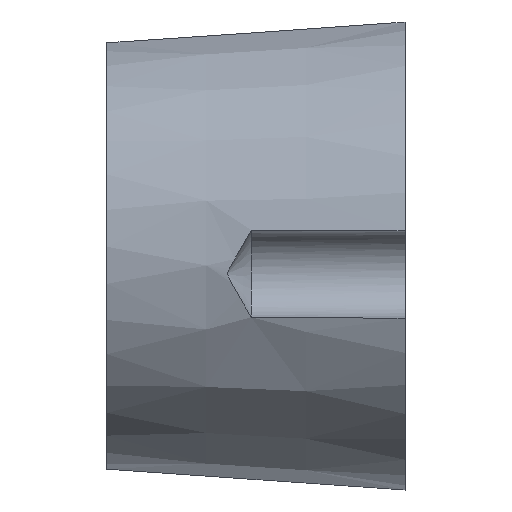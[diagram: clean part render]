
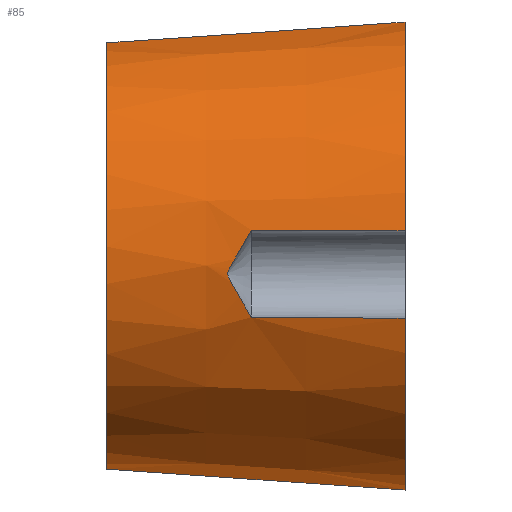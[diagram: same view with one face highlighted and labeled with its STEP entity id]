
A CAD part, top view. The second image highlights one B-rep face of the part: STEP entity #85.
In plain terms, the highlighted conical face has half-angle 4 degrees and reference radius 16.041 mm.
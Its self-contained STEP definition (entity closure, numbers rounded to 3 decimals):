
#85 = ADVANCED_FACE( '', ( #112 ), #113, .T. );
#112 = FACE_OUTER_BOUND( '', #144, .T. );
#113 = CONICAL_SURFACE( '', #145, 16.041, 0.07 );
#144 = EDGE_LOOP( '', ( #244, #245, #246, #247, #248, #249, #250, #251 ) );
#145 = AXIS2_PLACEMENT_3D( '', #252, #253, #254 );
#244 = ORIENTED_EDGE( '', *, *, #327, .F. );
#245 = ORIENTED_EDGE( '', *, *, #314, .F. );
#246 = ORIENTED_EDGE( '', *, *, #290, .F. );
#247 = ORIENTED_EDGE( '', *, *, #322, .T. );
#248 = ORIENTED_EDGE( '', *, *, #297, .T. );
#249 = ORIENTED_EDGE( '', *, *, #316, .F. );
#250 = ORIENTED_EDGE( '', *, *, #328, .F. );
#251 = ORIENTED_EDGE( '', *, *, #288, .F. );
#252 = CARTESIAN_POINT( '', ( -22.3, 0., 0. ) );
#253 = DIRECTION( '', ( 1., 0., 0. ) );
#254 = DIRECTION( '', ( 0., 1., 0. ) );
#288 = EDGE_CURVE( '', #330, #331, #332, .T. );
#290 = EDGE_CURVE( '', #334, #335, #336, .T. );
#297 = EDGE_CURVE( '', #343, #347, #349, .T. );
#314 = EDGE_CURVE( '', #335, #379, #380, .T. );
#316 = EDGE_CURVE( '', #381, #347, #383, .T. );
#322 = EDGE_CURVE( '', #334, #343, #390, .T. );
#327 = EDGE_CURVE( '', #379, #330, #397, .T. );
#328 = EDGE_CURVE( '', #331, #381, #398, .T. );
#330 = VERTEX_POINT( '', #400 );
#331 = VERTEX_POINT( '', #401 );
#332 = B_SPLINE_CURVE_WITH_KNOTS( '', 3, ( #402, #403, #404, #405, #406, #407, #408, #409, #410, #411, #412, #413, #414, #415, #416, #417, #418, #419, #420, #421, #422, #423 ), .UNSPECIFIED., .F., .F., ( 4, 2, 2, 2, 2, 2, 2, 2, 2, 2, 4 ), ( 0., 0.002, 0.003, 0.003, 0.004, 0.004, 0.004, 0.004, 0.005, 0.006, 0.007 ), .UNSPECIFIED. );
#334 = VERTEX_POINT( '', #425 );
#335 = VERTEX_POINT( '', #426 );
#336 = B_SPLINE_CURVE_WITH_KNOTS( '', 3, ( #427, #428, #429, #430, #431, #432 ), .UNSPECIFIED., .F., .F., ( 4, 2, 4 ), ( 0., 0.011, 0.022 ), .UNSPECIFIED. );
#343 = VERTEX_POINT( '', #444 );
#347 = VERTEX_POINT( '', #450 );
#349 = B_SPLINE_CURVE_WITH_KNOTS( '', 3, ( #453, #454, #455, #456, #457, #458, #459 ), .UNSPECIFIED., .F., .F., ( 4, 3, 4 ), ( 0.028, 0.03, 0.05 ), .UNSPECIFIED. );
#379 = VERTEX_POINT( '', #500 );
#380 = CIRCLE( '', #501, 17.6 );
#381 = VERTEX_POINT( '', #502 );
#383 = CIRCLE( '', #504, 17.6 );
#390 = CIRCLE( '', #513, 16.041 );
#397 = B_SPLINE_CURVE_WITH_KNOTS( '', 3, ( #553, #554, #555, #556 ), .UNSPECIFIED., .F., .F., ( 4, 4 ), ( 0., 0.012 ), .UNSPECIFIED. );
#398 = B_SPLINE_CURVE_WITH_KNOTS( '', 3, ( #557, #558, #559, #560 ), .UNSPECIFIED., .F., .F., ( 4, 4 ), ( 0., 0.012 ), .UNSPECIFIED. );
#400 = CARTESIAN_POINT( '', ( -11.5, 1.826, 16.696 ) );
#401 = CARTESIAN_POINT( '', ( -11.5, -4.687, 16.129 ) );
#402 = CARTESIAN_POINT( '', ( -11.5, 1.826, 16.696 ) );
#403 = CARTESIAN_POINT( '', ( -11.812, 1.287, 16.733 ) );
#404 = CARTESIAN_POINT( '', ( -12.124, 0.746, 16.744 ) );
#405 = CARTESIAN_POINT( '', ( -12.59, -0.065, 16.722 ) );
#406 = CARTESIAN_POINT( '', ( -12.745, -0.335, 16.708 ) );
#407 = CARTESIAN_POINT( '', ( -12.973, -0.743, 16.677 ) );
#408 = CARTESIAN_POINT( '', ( -13.048, -0.88, 16.665 ) );
#409 = CARTESIAN_POINT( '', ( -13.152, -1.088, 16.645 ) );
#410 = CARTESIAN_POINT( '', ( -13.185, -1.158, 16.638 ) );
#411 = CARTESIAN_POINT( '', ( -13.239, -1.304, 16.623 ) );
#412 = CARTESIAN_POINT( '', ( -13.259, -1.38, 16.616 ) );
#413 = CARTESIAN_POINT( '', ( -13.256, -1.536, 16.602 ) );
#414 = CARTESIAN_POINT( '', ( -13.233, -1.612, 16.597 ) );
#415 = CARTESIAN_POINT( '', ( -13.177, -1.756, 16.586 ) );
#416 = CARTESIAN_POINT( '', ( -13.143, -1.826, 16.581 ) );
#417 = CARTESIAN_POINT( '', ( -13.039, -2.033, 16.564 ) );
#418 = CARTESIAN_POINT( '', ( -12.964, -2.169, 16.553 ) );
#419 = CARTESIAN_POINT( '', ( -12.738, -2.574, 16.512 ) );
#420 = CARTESIAN_POINT( '', ( -12.583, -2.841, 16.479 ) );
#421 = CARTESIAN_POINT( '', ( -12.12, -3.638, 16.361 ) );
#422 = CARTESIAN_POINT( '', ( -11.81, -4.165, 16.258 ) );
#423 = CARTESIAN_POINT( '', ( -11.5, -4.687, 16.129 ) );
#425 = CARTESIAN_POINT( '', ( -22.3, 15.868, 2.347 ) );
#426 = CARTESIAN_POINT( '', ( 0., 17.423, 2.488 ) );
#427 = CARTESIAN_POINT( '', ( -22.3, 15.868, 2.347 ) );
#428 = CARTESIAN_POINT( '', ( -18.583, 16.115, 2.452 ) );
#429 = CARTESIAN_POINT( '', ( -14.866, 16.368, 2.515 ) );
#430 = CARTESIAN_POINT( '', ( -7.432, 16.887, 2.563 ) );
#431 = CARTESIAN_POINT( '', ( -3.716, 17.152, 2.549 ) );
#432 = CARTESIAN_POINT( '', ( 0., 17.423, 2.488 ) );
#444 = CARTESIAN_POINT( '', ( -22.3, -16.023, 0.75 ) );
#450 = CARTESIAN_POINT( '', ( 0., -17.584, 0.75 ) );
#453 = CARTESIAN_POINT( '', ( -22.3, -16.023, 0.75 ) );
#454 = CARTESIAN_POINT( '', ( -21.441, -16.083, 0.75 ) );
#455 = CARTESIAN_POINT( '', ( -20.582, -16.143, 0.75 ) );
#456 = CARTESIAN_POINT( '', ( -19.723, -16.203, 0.75 ) );
#457 = CARTESIAN_POINT( '', ( -13.149, -16.664, 0.75 ) );
#458 = CARTESIAN_POINT( '', ( -6.574, -17.124, 0.75 ) );
#459 = CARTESIAN_POINT( '', ( 0., -17.584, 0.75 ) );
#500 = CARTESIAN_POINT( '', ( 0., 1.766, 17.511 ) );
#501 = AXIS2_PLACEMENT_3D( '', #600, #601, #602 );
#502 = CARTESIAN_POINT( '', ( 0., -4.769, 16.942 ) );
#504 = AXIS2_PLACEMENT_3D( '', #606, #607, #608 );
#513 = AXIS2_PLACEMENT_3D( '', #620, #621, #622 );
#553 = CARTESIAN_POINT( '', ( 0., 1.766, 17.511 ) );
#554 = CARTESIAN_POINT( '', ( -3.833, 1.821, 17.236 ) );
#555 = CARTESIAN_POINT( '', ( -7.666, 1.84, 16.964 ) );
#556 = CARTESIAN_POINT( '', ( -11.5, 1.826, 16.696 ) );
#557 = CARTESIAN_POINT( '', ( -11.5, -4.687, 16.129 ) );
#558 = CARTESIAN_POINT( '', ( -7.666, -4.747, 16.39 ) );
#559 = CARTESIAN_POINT( '', ( -3.833, -4.775, 16.661 ) );
#560 = CARTESIAN_POINT( '', ( 0., -4.769, 16.942 ) );
#600 = CARTESIAN_POINT( '', ( 0., 0., 0. ) );
#601 = DIRECTION( '', ( 1., 0., 0. ) );
#602 = DIRECTION( '', ( 0., 1., 0. ) );
#606 = CARTESIAN_POINT( '', ( 0., 0., 0. ) );
#607 = DIRECTION( '', ( 1., 0., 0. ) );
#608 = DIRECTION( '', ( 0., 1., 0. ) );
#620 = CARTESIAN_POINT( '', ( -22.3, 0., 0. ) );
#621 = DIRECTION( '', ( 1., 0., 0. ) );
#622 = DIRECTION( '', ( 0., 1., 0. ) );
